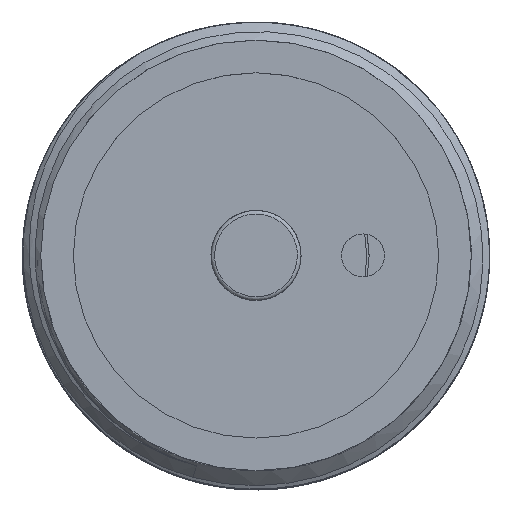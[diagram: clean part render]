
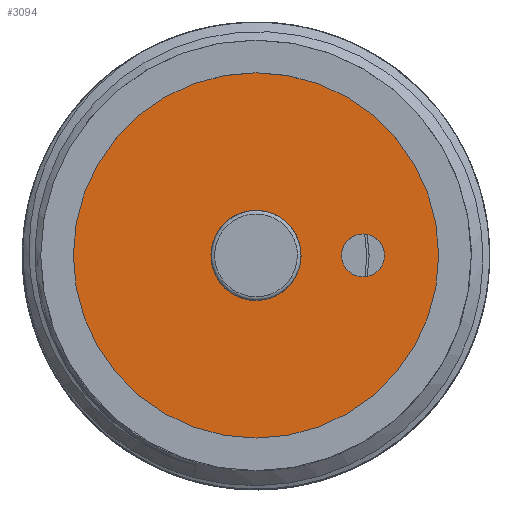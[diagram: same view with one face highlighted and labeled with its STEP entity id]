
A CAD part, top view. The second image highlights one B-rep face of the part: STEP entity #3094.
In plain terms, the highlighted planar face has unit normal (0, 0, 1).
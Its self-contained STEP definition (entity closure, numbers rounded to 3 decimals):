
#2919=PLANE('',#6650);
#3094=ADVANCED_FACE('',(#3434,#3435,#3436),#2919,.F.);
#3434=FACE_BOUND('',#3571,.T.);
#3435=FACE_BOUND('',#3572,.T.);
#3436=FACE_BOUND('',#3573,.T.);
#3571=EDGE_LOOP('',(#3940));
#3572=EDGE_LOOP('',(#3941));
#3573=EDGE_LOOP('',(#3942));
#3940=ORIENTED_EDGE('',*,*,#5845,.F.);
#3941=ORIENTED_EDGE('',*,*,#5847,.F.);
#3942=ORIENTED_EDGE('',*,*,#5849,.F.);
#5351=VERTEX_POINT('',#8052);
#5353=VERTEX_POINT('',#8057);
#5355=VERTEX_POINT('',#8062);
#5845=EDGE_CURVE('',#5351,#5351,#6555,.T.);
#5847=EDGE_CURVE('',#5353,#5353,#6557,.T.);
#5849=EDGE_CURVE('',#5355,#5355,#6559,.T.);
#6555=CIRCLE('',#6642,1.75);
#6557=CIRCLE('',#6645,2.5);
#6559=CIRCLE('',#6648,15.5);
#6642=AXIS2_PLACEMENT_3D('',#8051,#6955,#6956);
#6645=AXIS2_PLACEMENT_3D('',#8056,#6961,#6962);
#6648=AXIS2_PLACEMENT_3D('',#8061,#6967,#6968);
#6650=AXIS2_PLACEMENT_3D('',#8064,#6971,#6972);
#6955=DIRECTION('',(0.,0.,1.));
#6956=DIRECTION('',(0.,-1.,0.));
#6961=DIRECTION('',(0.,0.,1.));
#6962=DIRECTION('',(0.,-1.,0.));
#6967=DIRECTION('',(0.,0.,-1.));
#6968=DIRECTION('',(0.,-1.,0.));
#6971=DIRECTION('',(0.,0.,-1.));
#6972=DIRECTION('',(0.,1.,0.));
#8051=CARTESIAN_POINT('',(32.096,24.6,0.));
#8052=CARTESIAN_POINT('',(32.096,22.85,0.));
#8056=CARTESIAN_POINT('',(23.396,24.6,0.));
#8057=CARTESIAN_POINT('',(23.396,22.1,0.));
#8061=CARTESIAN_POINT('',(23.396,24.6,0.));
#8062=CARTESIAN_POINT('',(23.396,9.1,0.));
#8064=CARTESIAN_POINT('',(23.396,24.6,0.));
